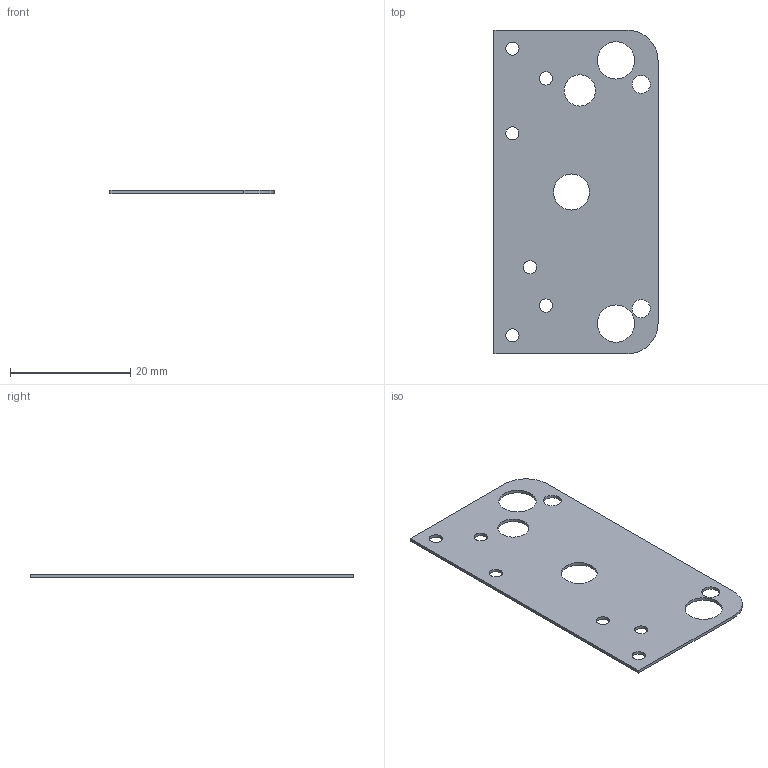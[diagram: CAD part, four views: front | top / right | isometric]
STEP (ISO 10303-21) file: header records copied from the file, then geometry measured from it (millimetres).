
FILE_DESCRIPTION (( 'STEP AP203' ), '1' );
FILE_NAME ('墊塊.step', '2026-06-05T03:32:57', ( '' ), ( '' ), 'SwSTEP 2.0', 'SolidWorks 2024', '' );
FILE_SCHEMA (( 'CONFIG_CONTROL_DESIGN' ));
Length unit declared in the file: millimetre
Products named in the file (1): 墊塊
Bounding box: 27.3 x 53.8 x 0.5 mm (x, y, z)
Volume: 655.6 mm3; surface area: 2768.5 mm2
Topology: 1 solids, 1 shells, 32 faces, 90 edges, 60 vertices
Faces by surface type: cylinder 26, plane 6
Entity records: 1191 total; most frequent: DIRECTION 208, CARTESIAN_POINT 183, ORIENTED_EDGE 180, EDGE_CURVE 90, AXIS2_PLACEMENT_3D 85, VERTEX_POINT 60, EDGE_LOOP 56, CIRCLE 52
